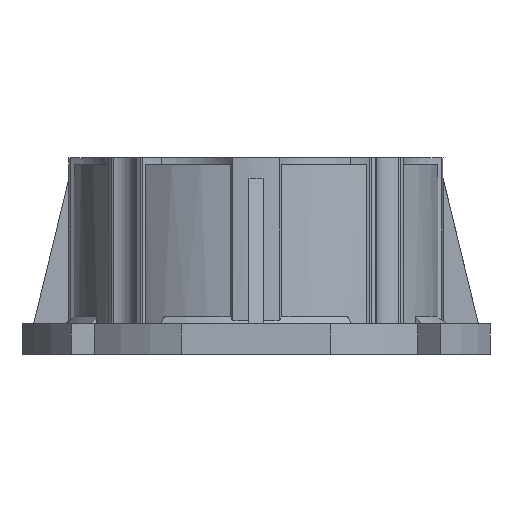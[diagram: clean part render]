
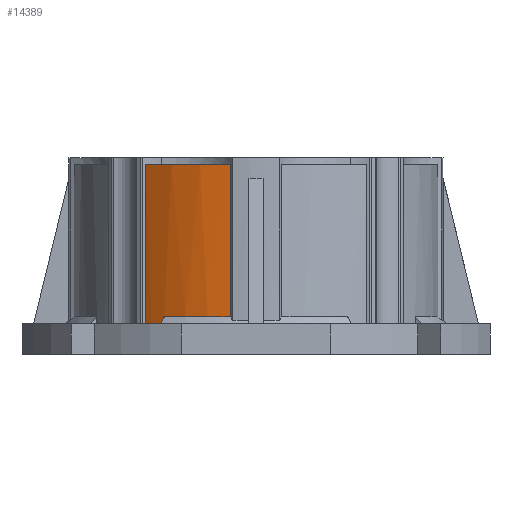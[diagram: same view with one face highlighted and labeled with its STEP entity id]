
A CAD part, left-side view. The second image highlights one B-rep face of the part: STEP entity #14389.
In plain terms, the highlighted cylindrical face has radius 78.5 mm (diameter 157 mm), a partial arc.
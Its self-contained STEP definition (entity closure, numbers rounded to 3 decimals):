
#413 = CARTESIAN_POINT ( 'NONE',  ( -67.983, 39.25, 0. ) ) ;
#493 = CARTESIAN_POINT ( 'NONE',  ( -67.983, 39.25, 3. ) ) ;
#503 = CARTESIAN_POINT ( 'NONE',  ( -77.73, 10.969, 3. ) ) ;
#1024 = CARTESIAN_POINT ( 'NONE',  ( 0., 0., 3. ) ) ;
#1025 = DIRECTION ( 'NONE',  ( 0., 0., -1. ) ) ;
#1026 = DIRECTION ( 'NONE',  ( -1., 0., 0. ) ) ;
#1461 = CARTESIAN_POINT ( 'NONE',  ( -62.72, 47.207, 68. ) ) ;
#1465 = CARTESIAN_POINT ( 'NONE',  ( -62.72, 47.207, 0. ) ) ;
#1847 = CARTESIAN_POINT ( 'NONE',  ( 0., 0., 68. ) ) ;
#1848 = DIRECTION ( 'NONE',  ( 0., 0., -1. ) ) ;
#1849 = DIRECTION ( 'NONE',  ( -1., 0., 0. ) ) ;
#2872 = VERTEX_POINT ( 'NONE', #12111 ) ;
#3757 = CARTESIAN_POINT ( 'NONE',  ( 0., 0., 68. ) ) ;
#3758 = DIRECTION ( 'NONE',  ( 0., 0., 1. ) ) ;
#3759 = DIRECTION ( 'NONE',  ( 1., 0., 0. ) ) ;
#4381 = AXIS2_PLACEMENT_3D ( 'NONE', #1847, #1848, #1849 ) ;
#4387 = FACE_OUTER_BOUND ( 'NONE', #13235, .T. ) ;
#4389 = CYLINDRICAL_SURFACE ( 'NONE', #4381, 78.5 ) ;
#5132 = AXIS2_PLACEMENT_3D ( 'NONE', #10250, #10263, #10264 ) ;
#5764 = AXIS2_PLACEMENT_3D ( 'NONE', #1024, #1025, #1026 ) ;
#6172 = EDGE_CURVE ( 'NONE', #2872, #14627, #9766, .T. ) ;
#6173 = EDGE_CURVE ( 'NONE', #14617, #14537, #9769, .T. ) ;
#6633 = CIRCLE ( 'NONE', #5132, 78.5 ) ;
#6767 = CIRCLE ( 'NONE', #15843, 78.5 ) ;
#6816 = CIRCLE ( 'NONE', #5764, 78.5 ) ;
#7051 = EDGE_CURVE ( 'NONE', #17095, #17091, #16047, .T. ) ;
#9766 = LINE ( 'NONE', #9767, #17180 ) ;
#9767 = CARTESIAN_POINT ( 'NONE',  ( -77.73, 10.969, 34. ) ) ;
#9768 = DIRECTION ( 'NONE',  ( 0., 0., -1. ) ) ;
#9769 = LINE ( 'NONE', #9770, #17200 ) ;
#9770 = CARTESIAN_POINT ( 'NONE',  ( -67.983, 39.25, 10. ) ) ;
#9771 = DIRECTION ( 'NONE',  ( 0., 0., -1. ) ) ;
#10250 = CARTESIAN_POINT ( 'NONE',  ( 0., 0., 0. ) ) ;
#10263 = DIRECTION ( 'NONE',  ( 0., 0., -1. ) ) ;
#10264 = DIRECTION ( 'NONE',  ( 1., 0., 0. ) ) ;
#10659 = VECTOR ( 'NONE', #16049, 1000. ) ;
#12111 = CARTESIAN_POINT ( 'NONE',  ( -77.73, 10.969, 68. ) ) ;
#12469 = ORIENTED_EDGE ( 'NONE', *, *, #6172, .F. ) ;
#12471 = ORIENTED_EDGE ( 'NONE', *, *, #7051, .F. ) ;
#12472 = ORIENTED_EDGE ( 'NONE', *, *, #13457, .F. ) ;
#12473 = ORIENTED_EDGE ( 'NONE', *, *, #16748, .F. ) ;
#12474 = ORIENTED_EDGE ( 'NONE', *, *, #6173, .F. ) ;
#12476 = ORIENTED_EDGE ( 'NONE', *, *, #18347, .F. ) ;
#13235 = EDGE_LOOP ( 'NONE', ( #12469, #12473, #12471, #12472, #12474, #12476 ) ) ;
#13457 = EDGE_CURVE ( 'NONE', #14537, #17095, #6633, .T. ) ;
#14389 = ADVANCED_FACE ( 'NONE', ( #4387 ), #4389, .T. ) ;
#14537 = VERTEX_POINT ( 'NONE', #413 ) ;
#14617 = VERTEX_POINT ( 'NONE', #493 ) ;
#14627 = VERTEX_POINT ( 'NONE', #503 ) ;
#15843 = AXIS2_PLACEMENT_3D ( 'NONE', #3757, #3758, #3759 ) ;
#16047 = LINE ( 'NONE', #16048, #10659 ) ;
#16048 = CARTESIAN_POINT ( 'NONE',  ( -62.72, 47.207, 34. ) ) ;
#16049 = DIRECTION ( 'NONE',  ( 0., 0., 1. ) ) ;
#16748 = EDGE_CURVE ( 'NONE', #17091, #2872, #6767, .T. ) ;
#17091 = VERTEX_POINT ( 'NONE', #1461 ) ;
#17095 = VERTEX_POINT ( 'NONE', #1465 ) ;
#17180 = VECTOR ( 'NONE', #9768, 1000. ) ;
#17200 = VECTOR ( 'NONE', #9771, 1000. ) ;
#18347 = EDGE_CURVE ( 'NONE', #14627, #14617, #6816, .T. ) ;
